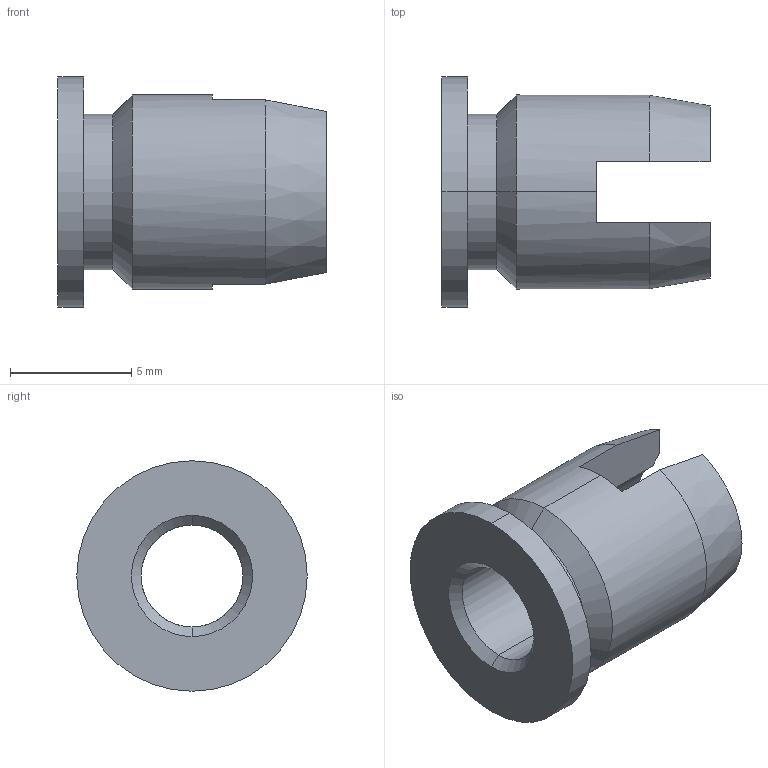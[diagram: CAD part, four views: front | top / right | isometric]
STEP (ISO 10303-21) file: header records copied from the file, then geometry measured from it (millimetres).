
FILE_DESCRIPTION (( 'STEP AP203' ), '1' );
FILE_NAME ('FSUK-SCRH-M05.STEP', '2021-06-16T12:12:05', ( '' ), ( '' ), 'SwSTEP 2.0', 'SolidWorks 2021', '' );
FILE_SCHEMA (( 'CONFIG_CONTROL_DESIGN' ));
Length unit declared in the file: millimetre
Products named in the file (1): FSUK-SCRH-M05
Bounding box: 11.06 x 9.5 x 9.5 mm (x, y, z)
Volume: 336.6 mm3; surface area: 532.7 mm2
Topology: 1 solids, 1 shells, 26 faces, 66 edges, 42 vertices
Faces by surface type: plane 10, cone 8, cylinder 8
Entity records: 881 total; most frequent: CARTESIAN_POINT 159, DIRECTION 142, ORIENTED_EDGE 132, EDGE_CURVE 66, AXIS2_PLACEMENT_3D 57, VERTEX_POINT 42, CIRCLE 30, EDGE_LOOP 28
